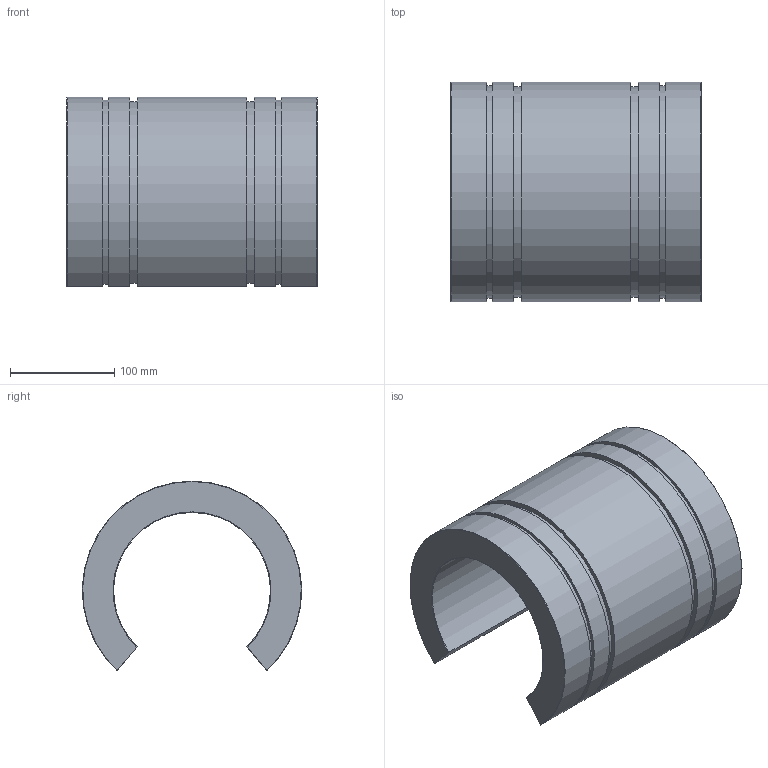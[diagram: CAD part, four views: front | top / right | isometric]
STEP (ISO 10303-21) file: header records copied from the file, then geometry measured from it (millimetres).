
FILE_DESCRIPTION(('STEP AP203'),'1');
FILE_NAME('//192.168.1.1/share/s-4 技術開発/s-4-4_CAD/s-4-4-3_見直し済み/PBC LINEAR修正済み/FJN/FJN_TOP/FJN150.step','2022-03-24T07:40:58',(' '),(' '),'Spatial InterOp 3D',' ',' ');
FILE_SCHEMA(('CONFIG_CONTROL_DESIGN'));
Length unit declared in the file: millimetre
Products named in the file (2): 1; 2
Bounding box: 240 x 209.87 x 181.59 mm (x, y, z)
Volume: 3037103.9 mm3; surface area: 259273 mm2
Topology: 1 solids, 1 shells, 26 faces, 74 edges, 52 vertices
Faces by surface type: plane 12, cylinder 10, torus 4
Entity records: 970 total; most frequent: CARTESIAN_POINT 190, DIRECTION 147, ORIENTED_EDGE 144, EDGE_CURVE 72, AXIS2_PLACEMENT_3D 53, VERTEX_POINT 48, LINE 41, VECTOR 41
